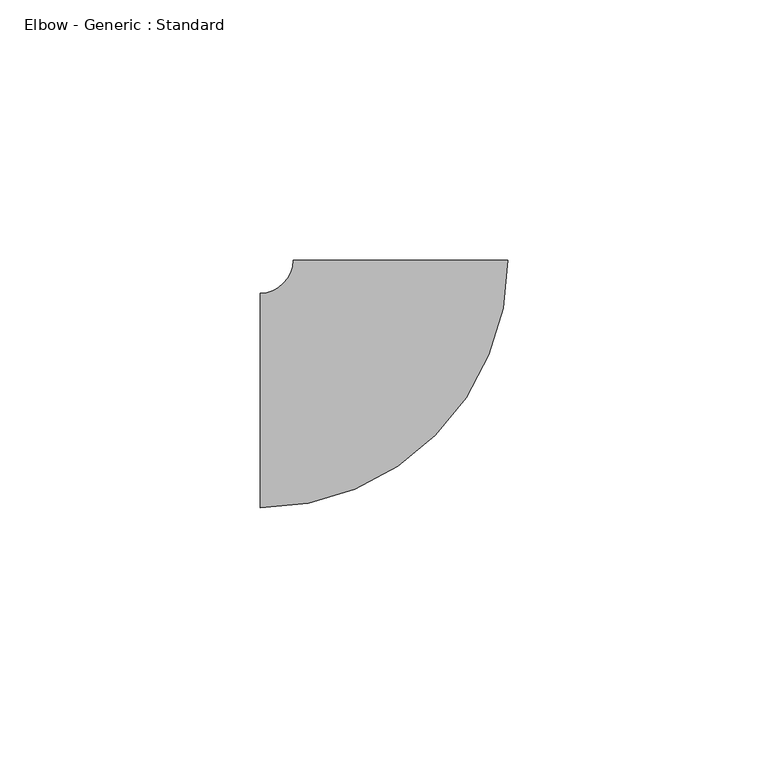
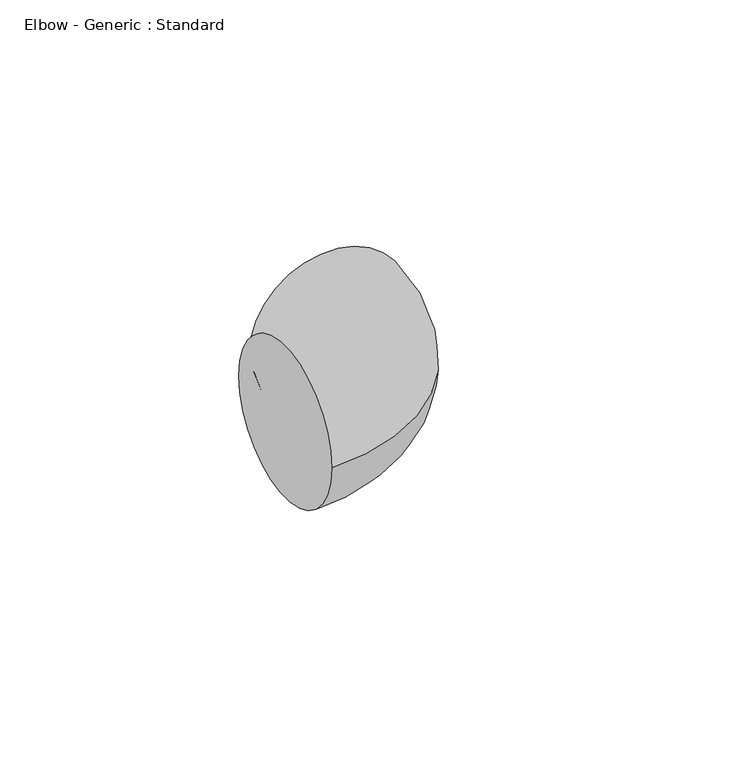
"""IFC4 building model written with IfcOpenShell, lengths in millimetres: pipe fitting geometry, Elbow - Generic : Standard."""

from ifc_helpers import new_model, si_unit, point, frame, origin, place, context, project, spatial, circle_curve, ellipse_curve, trimmed, source, transform, mapped, element, save
from ifc_brep_helpers import plane_surface, revolved_surface, advanced_brep


def elbow_generic_standard_3fcd958e(model_context):
    return source(origin(), model_context, "Body", "AdvancedBrep", [
        advanced_brep(
        [(-26.987465, -20.6375, 0.0), (-26.987465, 20.6375, 0.0), (20.637535, 26.9874383, 0.0), (-20.637465, 26.9874918, 0.0)],
        [
            (0, 1, circle_curve(frame((-26.987465, 0.0, 0.0), z_axis=(-1.0, 0.0, 0.0), x_axis=(0.0, 1.0, 0.0)), 20.6375)),
            (1, 0, circle_curve(frame((-26.987465, 0.0, 0.0), z_axis=(-1.0, 0.0, 0.0), x_axis=(0.0, 1.0, 0.0)), 20.6375)),
            (2, 3, circle_curve(frame((3.5e-05, 26.987465, 0.0), z_axis=(1.2963089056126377e-06, 0.9999999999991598, 0.0), x_axis=(-0.9999999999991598, 1.2963089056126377e-06, 0.0)), 20.6375)),
            (3, 2, circle_curve(frame((3.5e-05, 26.987465, 0.0), z_axis=(1.2963089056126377e-06, 0.9999999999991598, 0.0), x_axis=(-0.9999999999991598, 1.2963089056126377e-06, 0.0)), 20.6375)),
            (3, 1, circle_curve(frame((-26.987465, 26.9875, 0.0), z_axis=(0.0, 0.0, -1.0), x_axis=(0.0, -1.0, 0.0)), 6.35)),
            (0, 2, circle_curve(frame((-26.987465, 26.9875, 0.0), z_axis=(0.0, 0.0, 1.0), x_axis=(0.0, -1.0, 0.0)), 47.625)),
        ],
        [
            plane_surface(frame((-26.987465, 0.0, 0.0), z_axis=(-1.0, 0.0, 0.0), x_axis=(0.0, 0.0, 1.0))),
            plane_surface(frame((3.5e-05, 26.987465, 0.0), z_axis=(1.2963089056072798e-06, 0.9999999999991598, 0.0), x_axis=(0.0, 0.0, 1.0))),
            revolved_surface(trimmed(ellipse_curve(frame((-26.987465, 0.0, 0.0), z_axis=(-1.0, 0.0, 0.0), x_axis=(0.0, 1.0, 0.0)), 20.6375, 20.6375), [point((-26.987465, -20.6375, 0.0))], [point((-26.987465, 20.6375, 0.0))], True, "CARTESIAN"), (-26.987465, 26.9875, 0.0), (0.0, 0.0, 1.0)),
            revolved_surface(trimmed(ellipse_curve(frame((-26.987465, 0.0, 0.0), z_axis=(-1.0, 0.0, 0.0), x_axis=(0.0, 1.0, 0.0)), 20.6375, 20.6375), [point((-26.987465, 20.6375, 0.0))], [point((-26.987465, -20.6375, 0.0))], True, "CARTESIAN"), (-26.987465, 26.9875, 0.0), (0.0, 0.0, 1.0)),
        ],
        [
            (0, [[1, 2]]),
            (1, [[3, 4]]),
            (2, [[5, -1, 6, -4]]),
            (3, [[-6, -2, -5, -3]]),
        ],
    ),
    ])


if __name__ == "__main__":
    model = new_model("IFC4")
    model_context = context("Model", 3, world=origin())
    ifc_project = project(units=[si_unit("LENGTHUNIT", "METRE", prefix="MILLI")], contexts=[model_context])
    site = spatial("IfcSite", under=ifc_project)
    building = spatial("IfcBuilding", under=site)
    placement = place(None, origin())
    elbow_generic_standard_shape = elbow_generic_standard_3fcd958e(model_context)
    element("IfcPipeFitting", 1, ObjectType="Elbow - Generic : Standard", at=placement, inside=building, context=model_context, shape_type="MappedRepresentation", body=[
        mapped(elbow_generic_standard_shape, transform((0.0, 0.0, 0.0), x_axis=(1.0, 0.0, 0.0), y_axis=(0.0, 1.0, 0.0), z_axis=(0.0, 0.0, 1.0))),
    ])
    save(model, "model.ifc")
